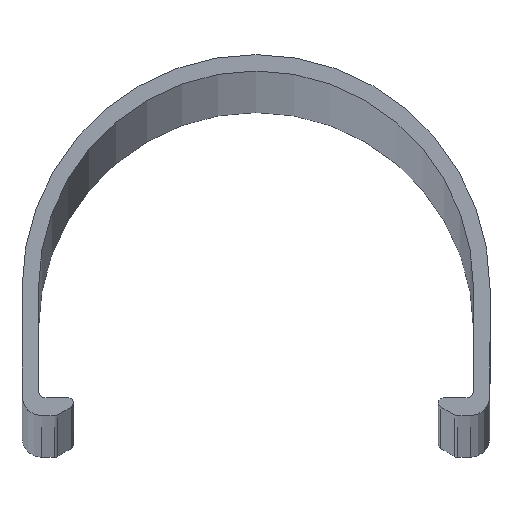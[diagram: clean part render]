
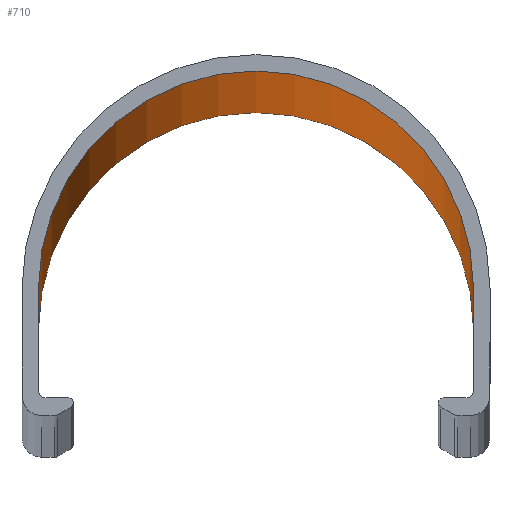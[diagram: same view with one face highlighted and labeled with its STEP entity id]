
A CAD part, top view. The second image highlights one B-rep face of the part: STEP entity #710.
In plain terms, the highlighted cylindrical face has radius 13.25 mm (diameter 26.5 mm), a partial arc.
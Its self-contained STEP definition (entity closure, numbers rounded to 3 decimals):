
#6 = DIRECTION ( 'NONE',  ( -1., 0., 0. ) ) ;
#10 = CARTESIAN_POINT ( 'NONE',  ( -13.25, 7.75, -725. ) ) ;
#41 = AXIS2_PLACEMENT_3D ( 'NONE', #450, #763, #328 ) ;
#42 = ORIENTED_EDGE ( 'NONE', *, *, #325, .F. ) ;
#77 = CARTESIAN_POINT ( 'NONE',  ( 0., 7.75, 725. ) ) ;
#86 = EDGE_CURVE ( 'NONE', #732, #737, #659, .T. ) ;
#105 = EDGE_CURVE ( 'NONE', #400, #737, #421, .T. ) ;
#190 = ORIENTED_EDGE ( 'NONE', *, *, #86, .T. ) ;
#249 = CYLINDRICAL_SURFACE ( 'NONE', #722, 13.25 ) ;
#276 = CARTESIAN_POINT ( 'NONE',  ( -13.25, 7.75, 725. ) ) ;
#298 = CIRCLE ( 'NONE', #41, 13.25 ) ;
#310 = ORIENTED_EDGE ( 'NONE', *, *, #662, .T. ) ;
#312 = FACE_OUTER_BOUND ( 'NONE', #607, .T. ) ;
#315 = AXIS2_PLACEMENT_3D ( 'NONE', #665, #601, #597 ) ;
#317 = CARTESIAN_POINT ( 'NONE',  ( 13.25, 7.75, -725. ) ) ;
#325 = EDGE_CURVE ( 'NONE', #329, #400, #298, .T. ) ;
#328 = DIRECTION ( 'NONE',  ( 1., 0., 0. ) ) ;
#329 = VERTEX_POINT ( 'NONE', #276 ) ;
#352 = VECTOR ( 'NONE', #371, 1000. ) ;
#371 = DIRECTION ( 'NONE',  ( 0., 0., -1. ) ) ;
#400 = VERTEX_POINT ( 'NONE', #629 ) ;
#421 = LINE ( 'NONE', #720, #767 ) ;
#424 = LINE ( 'NONE', #547, #352 ) ;
#450 = CARTESIAN_POINT ( 'NONE',  ( 0., 7.75, 725. ) ) ;
#547 = CARTESIAN_POINT ( 'NONE',  ( -13.25, 7.75, 725. ) ) ;
#553 = DIRECTION ( 'NONE',  ( 0., 0., -1. ) ) ;
#597 = DIRECTION ( 'NONE',  ( 1., 0., 0. ) ) ;
#601 = DIRECTION ( 'NONE',  ( 0., 0., -1. ) ) ;
#607 = EDGE_LOOP ( 'NONE', ( #190, #745, #42, #310 ) ) ;
#629 = CARTESIAN_POINT ( 'NONE',  ( 13.25, 7.75, 725. ) ) ;
#659 = CIRCLE ( 'NONE', #315, 13.25 ) ;
#662 = EDGE_CURVE ( 'NONE', #329, #732, #424, .T. ) ;
#665 = CARTESIAN_POINT ( 'NONE',  ( 0., 7.75, -725. ) ) ;
#710 = ADVANCED_FACE ( 'NONE', ( #312 ), #249, .F. ) ;
#720 = CARTESIAN_POINT ( 'NONE',  ( 13.25, 7.75, 725. ) ) ;
#722 = AXIS2_PLACEMENT_3D ( 'NONE', #77, #553, #6 ) ;
#732 = VERTEX_POINT ( 'NONE', #10 ) ;
#737 = VERTEX_POINT ( 'NONE', #317 ) ;
#745 = ORIENTED_EDGE ( 'NONE', *, *, #105, .F. ) ;
#763 = DIRECTION ( 'NONE',  ( 0., 0., -1. ) ) ;
#767 = VECTOR ( 'NONE', #776, 1000. ) ;
#776 = DIRECTION ( 'NONE',  ( 0., 0., -1. ) ) ;
